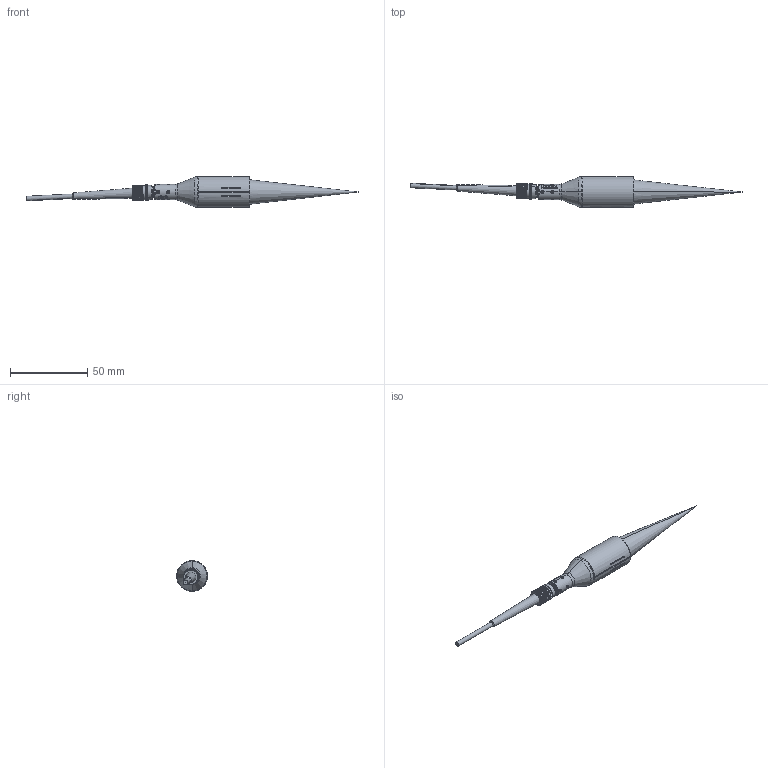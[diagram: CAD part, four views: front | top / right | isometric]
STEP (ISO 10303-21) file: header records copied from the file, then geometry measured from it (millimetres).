
FILE_DESCRIPTION (( 'STEP AP214' ), '1' );
FILE_NAME ('7111209.000-AA IMP-TH70 Interferometrischer Dickensensor_STEP.STEP', '2021-02-10T13:55:39', ( '' ), ( '' ), 'SwSTEP 2.0', 'SolidWorks 2020', '' );
FILE_SCHEMA (( 'AUTOMOTIVE_DESIGN' ));
Length unit declared in the file: millimetre
Products named in the file (1): 7111209.000-AA  IMP-TH70 Interferometrischer Dickensensor_STEP
Bounding box: 214.47 x 19.99 x 20 mm (x, y, z)
Volume: 20769.4 mm3; surface area: 7913.4 mm2
Topology: 3 solids, 8 shells, 702 faces, 1888 edges, 1245 vertices
Faces by surface type: plane 315, cylinder 156, bspline 138, cone 83, sphere 6, torus 4
Entity records: 42928 total; most frequent: CARTESIAN_POINT 18789, ORIENTED_EDGE 3776, DIRECTION 2910, EDGE_CURVE 1888, VERTEX_POINT 1245, LINE 974, VECTOR 974, AXIS2_PLACEMENT_3D 968
